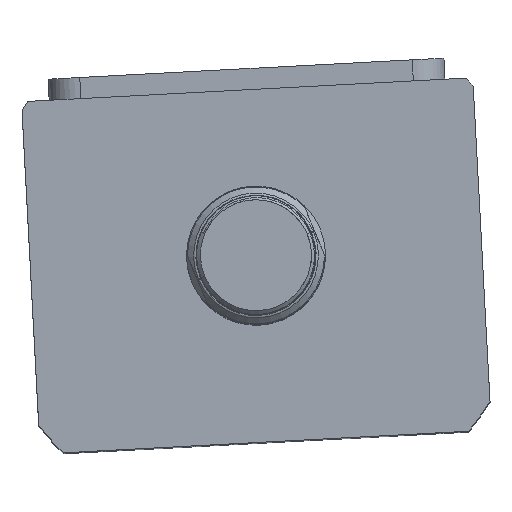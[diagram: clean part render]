
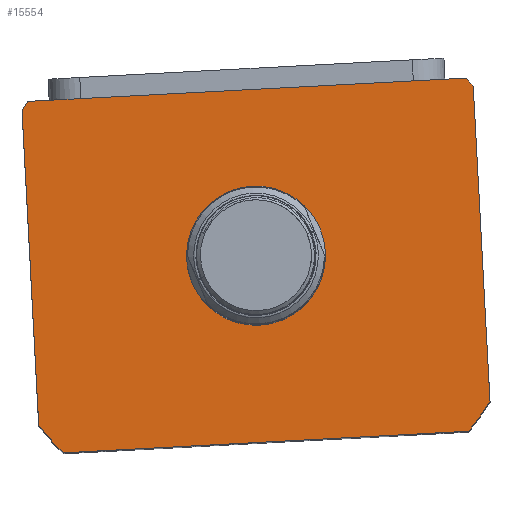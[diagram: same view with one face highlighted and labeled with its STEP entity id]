
A CAD part, top view. The second image highlights one B-rep face of the part: STEP entity #15554.
In plain terms, the highlighted planar face has unit normal (0, 0, 1) as drawn and (0, 0, -1) by its records, which use the part's own axes.
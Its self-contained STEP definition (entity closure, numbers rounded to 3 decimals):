
#13 = CARTESIAN_POINT ( 'NONE',  ( -57., -44.5, 0. ) ) ;
#446 = CARTESIAN_POINT ( 'NONE',  ( 17.5, 2.5, 0. ) ) ;
#536 = ORIENTED_EDGE ( 'NONE', *, *, #10365, .F. ) ;
#941 = VERTEX_POINT ( 'NONE', #24194 ) ;
#1116 = CARTESIAN_POINT ( 'NONE',  ( -57., 42.265, 0. ) ) ;
#1608 = CARTESIAN_POINT ( 'NONE',  ( 0., 2.5, 0. ) ) ;
#1978 = DIRECTION ( 'NONE',  ( 0., 1., 0. ) ) ;
#1993 = VERTEX_POINT ( 'NONE', #5000 ) ;
#2001 = CARTESIAN_POINT ( 'NONE',  ( 0., 2.5, 0. ) ) ;
#2827 = CARTESIAN_POINT ( 'NONE',  ( -57., 44.5, 0. ) ) ;
#2987 = VECTOR ( 'NONE', #24475, 1000. ) ;
#3232 = ORIENTED_EDGE ( 'NONE', *, *, #5055, .T. ) ;
#3557 = EDGE_CURVE ( 'NONE', #6752, #1993, #13974, .T. ) ;
#3781 = DIRECTION ( 'NONE',  ( 1., 0., 0. ) ) ;
#4147 = CARTESIAN_POINT ( 'NONE',  ( 57., 44.5, 0. ) ) ;
#4168 = DIRECTION ( 'NONE',  ( 1., 0., 0. ) ) ;
#4209 = VECTOR ( 'NONE', #17481, 1000. ) ;
#4857 = EDGE_CURVE ( 'NONE', #25808, #25516, #26102, .T. ) ;
#4871 = EDGE_CURVE ( 'NONE', #22118, #23103, #20334, .T. ) ;
#5000 = CARTESIAN_POINT ( 'NONE',  ( 57., -37.265, 0. ) ) ;
#5016 = ORIENTED_EDGE ( 'NONE', *, *, #11031, .T. ) ;
#5029 = DIRECTION ( 'NONE',  ( 0., 0., 1. ) ) ;
#5055 = EDGE_CURVE ( 'NONE', #941, #10327, #18266, .T. ) ;
#5229 = FACE_OUTER_BOUND ( 'NONE', #12398, .T. ) ;
#5659 = CARTESIAN_POINT ( 'NONE',  ( 0., 2.5, 0. ) ) ;
#5928 = FACE_BOUND ( 'NONE', #9210, .T. ) ;
#6752 = VERTEX_POINT ( 'NONE', #26436 ) ;
#6965 = ORIENTED_EDGE ( 'NONE', *, *, #14466, .F. ) ;
#7034 = DIRECTION ( 'NONE',  ( 0., 0., 1. ) ) ;
#7036 = CARTESIAN_POINT ( 'NONE',  ( 0., 2.5, 0. ) ) ;
#7841 = DIRECTION ( 'NONE',  ( 1., 0., 0. ) ) ;
#8425 = AXIS2_PLACEMENT_3D ( 'NONE', #1608, #16790, #3781 ) ;
#9196 = DIRECTION ( 'NONE',  ( 1., 0., 0. ) ) ;
#9210 = EDGE_LOOP ( 'NONE', ( #5016, #3232 ) ) ;
#9916 = LINE ( 'NONE', #4147, #15012 ) ;
#10009 = DIRECTION ( 'NONE',  ( 0., 0., 1. ) ) ;
#10043 = ORIENTED_EDGE ( 'NONE', *, *, #17943, .F. ) ;
#10065 = ORIENTED_EDGE ( 'NONE', *, *, #4857, .F. ) ;
#10327 = VERTEX_POINT ( 'NONE', #446 ) ;
#10365 = EDGE_CURVE ( 'NONE', #12671, #22118, #15149, .T. ) ;
#10381 = CIRCLE ( 'NONE', #8425, 17.5 ) ;
#10549 = CARTESIAN_POINT ( 'NONE',  ( -57., 44.5, 0. ) ) ;
#11031 = EDGE_CURVE ( 'NONE', #10327, #941, #10381, .T. ) ;
#12021 = LINE ( 'NONE', #13, #4209 ) ;
#12398 = EDGE_LOOP ( 'NONE', ( #536, #10043, #19851, #23044, #10065, #6965, #27287, #14358 ) ) ;
#12671 = VERTEX_POINT ( 'NONE', #20229 ) ;
#12705 = VECTOR ( 'NONE', #27927, 1000. ) ;
#13091 = AXIS2_PLACEMENT_3D ( 'NONE', #18012, #5029, #20224 ) ;
#13192 = VERTEX_POINT ( 'NONE', #1116 ) ;
#13974 = CIRCLE ( 'NONE', #27831, 69.5 ) ;
#14358 = ORIENTED_EDGE ( 'NONE', *, *, #4871, .F. ) ;
#14466 = EDGE_CURVE ( 'NONE', #13192, #25808, #18478, .T. ) ;
#14771 = EDGE_CURVE ( 'NONE', #25516, #6752, #12021, .T. ) ;
#15012 = VECTOR ( 'NONE', #1978, 1000. ) ;
#15149 = CIRCLE ( 'NONE', #20612, 69.5 ) ;
#15554 = ADVANCED_FACE ( 'NONE', ( #5928, #5229 ), #15632, .F. ) ;
#15632 = PLANE ( 'NONE',  #27505 ) ;
#15969 = CARTESIAN_POINT ( 'NONE',  ( 55.374, 44.5, 0. ) ) ;
#16790 = DIRECTION ( 'NONE',  ( 0., 0., 1. ) ) ;
#17176 = DIRECTION ( 'NONE',  ( 0., 0., 1. ) ) ;
#17481 = DIRECTION ( 'NONE',  ( 1., 0., 0. ) ) ;
#17943 = EDGE_CURVE ( 'NONE', #1993, #12671, #9916, .T. ) ;
#18012 = CARTESIAN_POINT ( 'NONE',  ( 0., 2.5, 0. ) ) ;
#18266 = CIRCLE ( 'NONE', #18940, 17.5 ) ;
#18478 = LINE ( 'NONE', #10549, #12705 ) ;
#18940 = AXIS2_PLACEMENT_3D ( 'NONE', #23029, #10009, #25207 ) ;
#19851 = ORIENTED_EDGE ( 'NONE', *, *, #3557, .F. ) ;
#20028 = CARTESIAN_POINT ( 'NONE',  ( 0., 0., 0. ) ) ;
#20224 = DIRECTION ( 'NONE',  ( 1., 0., 0. ) ) ;
#20229 = CARTESIAN_POINT ( 'NONE',  ( 57., 42.265, 0. ) ) ;
#20334 = LINE ( 'NONE', #2827, #2987 ) ;
#20612 = AXIS2_PLACEMENT_3D ( 'NONE', #7036, #22192, #9196 ) ;
#20797 = CARTESIAN_POINT ( 'NONE',  ( -57., -37.265, 0. ) ) ;
#20836 = DIRECTION ( 'NONE',  ( 0., 0., 1. ) ) ;
#21881 = CARTESIAN_POINT ( 'NONE',  ( -51.198, -44.5, 0. ) ) ;
#22118 = VERTEX_POINT ( 'NONE', #15969 ) ;
#22191 = DIRECTION ( 'NONE',  ( 1., 0., 0. ) ) ;
#22192 = DIRECTION ( 'NONE',  ( 0., 0., 1. ) ) ;
#22385 = AXIS2_PLACEMENT_3D ( 'NONE', #2001, #17176, #4168 ) ;
#22950 = CARTESIAN_POINT ( 'NONE',  ( -55.374, 44.5, 0. ) ) ;
#23029 = CARTESIAN_POINT ( 'NONE',  ( 0., 2.5, 0. ) ) ;
#23044 = ORIENTED_EDGE ( 'NONE', *, *, #14771, .F. ) ;
#23103 = VERTEX_POINT ( 'NONE', #22950 ) ;
#24034 = CIRCLE ( 'NONE', #22385, 69.5 ) ;
#24194 = CARTESIAN_POINT ( 'NONE',  ( -17.5, 2.5, 0. ) ) ;
#24475 = DIRECTION ( 'NONE',  ( -1., 0., 0. ) ) ;
#24605 = EDGE_CURVE ( 'NONE', #23103, #13192, #24034, .T. ) ;
#25207 = DIRECTION ( 'NONE',  ( 1., 0., 0. ) ) ;
#25516 = VERTEX_POINT ( 'NONE', #21881 ) ;
#25808 = VERTEX_POINT ( 'NONE', #20797 ) ;
#26102 = CIRCLE ( 'NONE', #13091, 69.5 ) ;
#26436 = CARTESIAN_POINT ( 'NONE',  ( 51.198, -44.5, 0. ) ) ;
#27287 = ORIENTED_EDGE ( 'NONE', *, *, #24605, .F. ) ;
#27505 = AXIS2_PLACEMENT_3D ( 'NONE', #20028, #7034, #22191 ) ;
#27831 = AXIS2_PLACEMENT_3D ( 'NONE', #5659, #20836, #7841 ) ;
#27927 = DIRECTION ( 'NONE',  ( 0., -1., 0. ) ) ;
